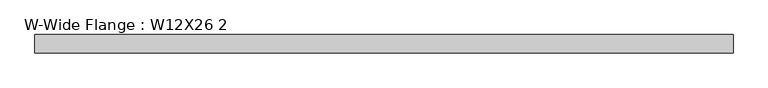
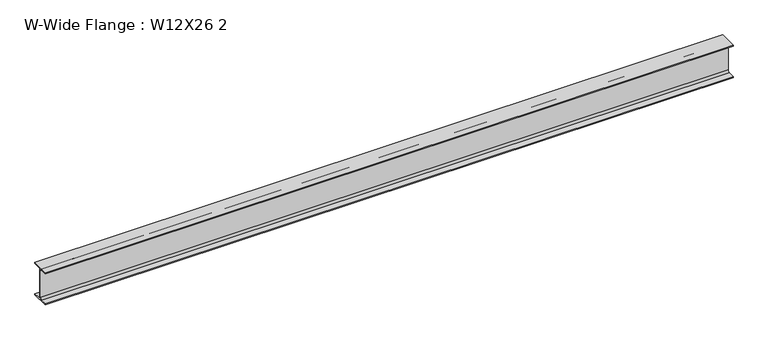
"""IFC4 building model written with IfcOpenShell, lengths in millimetres: beam geometry, W-Wide Flange : W12X26 2."""

from ifc_helpers import new_model, si_unit, point, frame, frame_2d, origin, place, context, project, spatial, polyline, circle_curve, trimmed, segment, composite_curve, outline, extrude, source, transform, mapped, element, save


def w_wide_flange_w12x26_2_a2853275(model_context):
    return source(origin(), model_context, "Body", "SweptSolid", [
        extrude(outline(composite_curve([segment(polyline([(82.4011719, -145.5539063), (82.4011719, -155.178125), (-82.4011719, -155.178125), (-82.4011719, -145.5539063), (-20.2902344, -145.5539063)]), True, "CONTINUOUS"), segment(trimmed(circle_curve(frame_2d((-20.2902344, -128.190625)), 17.3632812), [point((-20.2902344, -145.5539063))], [point((-2.9269531, -128.190625))], True, "CARTESIAN"), True, "CONTINUOUS"), segment(polyline([(-2.9269531, -128.190625), (-2.9269531, 128.190625)]), True, "CONTINUOUS"), segment(trimmed(circle_curve(frame_2d((-20.2902344, 128.190625)), 17.3632812), [point((-2.9269531, 128.190625))], [point((-20.2902344, 145.5539062))], True, "CARTESIAN"), True, "CONTINUOUS"), segment(polyline([(-20.2902344, 145.5539062), (-82.4011719, 145.5539062), (-82.4011719, 155.178125), (82.4011719, 155.178125), (82.4011719, 145.5539062), (20.2902344, 145.5539062)]), True, "CONTINUOUS"), segment(trimmed(circle_curve(frame_2d((20.2902344, 128.190625)), 17.3632812), [point((20.2902344, 145.5539062))], [point((2.9269531, 128.190625))], True, "CARTESIAN"), True, "CONTINUOUS"), segment(polyline([(2.9269531, 128.190625), (2.9269531, -128.190625)]), True, "CONTINUOUS"), segment(trimmed(circle_curve(frame_2d((20.2902344, -128.190625)), 17.3632812), [point((2.9269531, -128.190625))], [point((20.2902344, -145.5539063))], True, "CARTESIAN"), True, "CONTINUOUS"), segment(polyline([(20.2902344, -145.5539063), (82.4011719, -145.5539063)]), True, "CONTINUOUS")], self_intersect=False)), frame((-3114.9230469, 0.0, 0.0), z_axis=(1.0, 0.0, 0.0), x_axis=(0.0, 1.0, 0.0)), (0.0, 0.0, 1.0), 6229.8460938),
    ])


if __name__ == "__main__":
    model = new_model("IFC4")
    model_context = context("Model", 3, world=origin())
    ifc_project = project(units=[si_unit("LENGTHUNIT", "METRE", prefix="MILLI")], contexts=[model_context])
    site = spatial("IfcSite", under=ifc_project)
    building = spatial("IfcBuilding", under=site)
    placement = place(None, origin())
    w_wide_flange_w12x26_2_shape = w_wide_flange_w12x26_2_a2853275(model_context)
    element("IfcBeam", 1, ObjectType="W-Wide Flange : W12X26 2", at=placement, inside=building, context=model_context, shape_type="MappedRepresentation", body=[
        mapped(w_wide_flange_w12x26_2_shape, transform((0.0, 0.0, 0.0), x_axis=(1.0, 0.0, 0.0), y_axis=(0.0, 1.0, 0.0), z_axis=(0.0, 0.0, 1.0))),
    ])
    save(model, "model.ifc")
